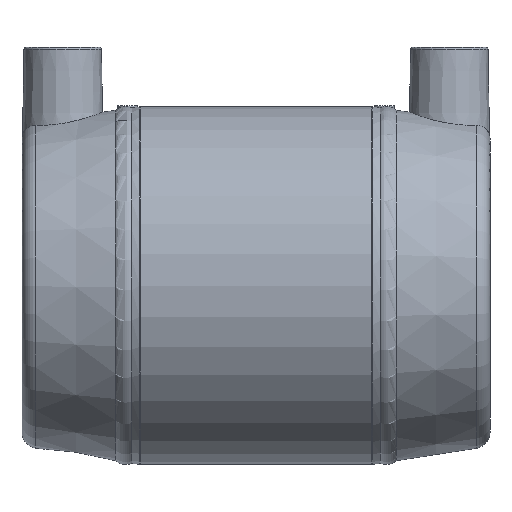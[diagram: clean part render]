
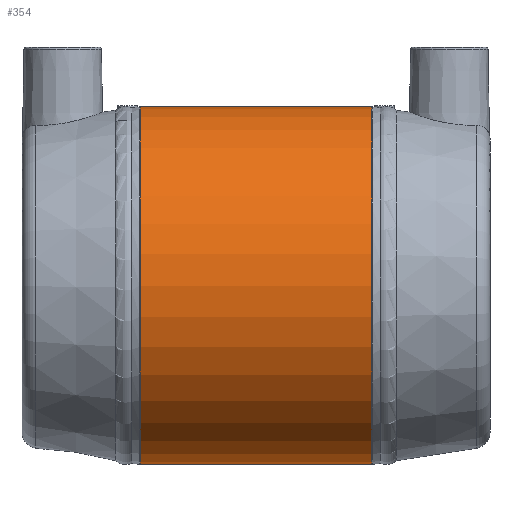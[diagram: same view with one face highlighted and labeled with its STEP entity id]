
A CAD part, front view. The second image highlights one B-rep face of the part: STEP entity #354.
In plain terms, the highlighted cylindrical face has radius 44 mm (diameter 88 mm), a full revolution.
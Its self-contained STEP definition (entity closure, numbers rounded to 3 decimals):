
#30=CYLINDRICAL_SURFACE('',#407,44.);
#70=ORIENTED_EDGE('',*,*,#138,.T.);
#71=ORIENTED_EDGE('',*,*,#139,.T.);
#138=EDGE_CURVE('',#171,#171,#200,.T.);
#139=EDGE_CURVE('',#172,#172,#201,.F.);
#171=VERTEX_POINT('',#679);
#172=VERTEX_POINT('',#681);
#200=CIRCLE('',#408,44.);
#201=CIRCLE('',#409,44.);
#232=EDGE_LOOP('',(#70));
#233=EDGE_LOOP('',(#71));
#292=FACE_BOUND('',#232,.T.);
#293=FACE_BOUND('',#233,.T.);
#354=ADVANCED_FACE('',(#292,#293),#30,.T.);
#407=AXIS2_PLACEMENT_3D('',#677,#483,#484);
#408=AXIS2_PLACEMENT_3D('',#678,#485,#486);
#409=AXIS2_PLACEMENT_3D('',#680,#487,#488);
#483=DIRECTION('',(-1.,0.,0.));
#484=DIRECTION('',(0.,0.,1.));
#485=DIRECTION('',(1.,0.,0.));
#486=DIRECTION('',(0.,0.,-1.));
#487=DIRECTION('',(1.,0.,0.));
#488=DIRECTION('',(0.,0.,-1.));
#677=CARTESIAN_POINT('',(-60.,0.,0.));
#678=CARTESIAN_POINT('',(-28.422,0.,0.));
#679=CARTESIAN_POINT('',(-28.422,0.,-44.));
#680=CARTESIAN_POINT('',(28.422,0.,0.));
#681=CARTESIAN_POINT('',(28.422,0.,-44.));
